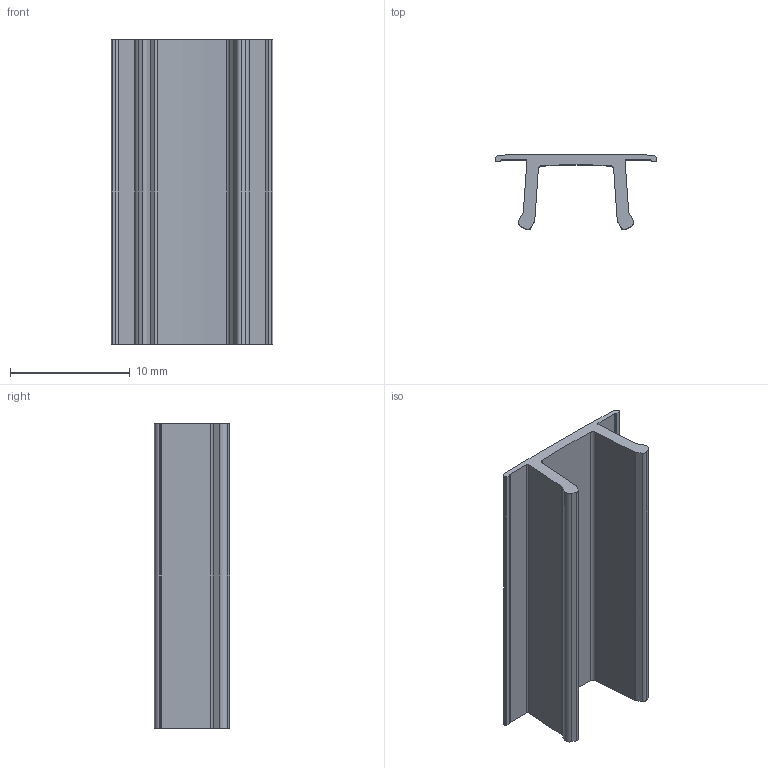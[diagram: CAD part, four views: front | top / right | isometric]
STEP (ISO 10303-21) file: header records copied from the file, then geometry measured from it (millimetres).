
FILE_DESCRIPTION((''),'2;1');
FILE_NAME('C:\Andys Backup Data\WEBSITE\DREAMWEAVER\MiniTec\Products\Edge_Cover_Slide_Sealing_Profiles\CAD\Step\22.1020_1 COVER PROFILE K GRAY.stp','2013-03-08T12:27:09',('Admin'),(''),'Autodesk Inventor 2012','Autodesk Inventor 2012','');
FILE_SCHEMA(('AUTOMOTIVE_DESIGN { 1 0 10303 214 1 1 1 1 }'));
Length unit declared in the file: inch
Products named in the file (1): 22.1020_1 COVER PROFILE K GRAY
Bounding box: 13.5 x 6.3 x 25.4 mm (x, y, z)
Volume: 529.7 mm3; surface area: 1294.2 mm2
Topology: 1 solids, 1 shells, 40 faces, 114 edges, 76 vertices
Faces by surface type: cylinder 22, plane 18
Entity records: 1350 total; most frequent: DIRECTION 240, CARTESIAN_POINT 231, ORIENTED_EDGE 228, EDGE_CURVE 114, AXIS2_PLACEMENT_3D 85, VERTEX_POINT 76, VECTOR 70, LINE 70
